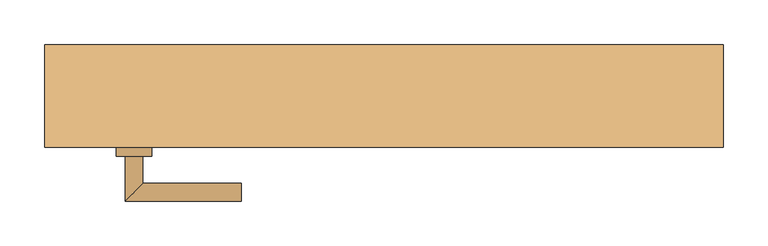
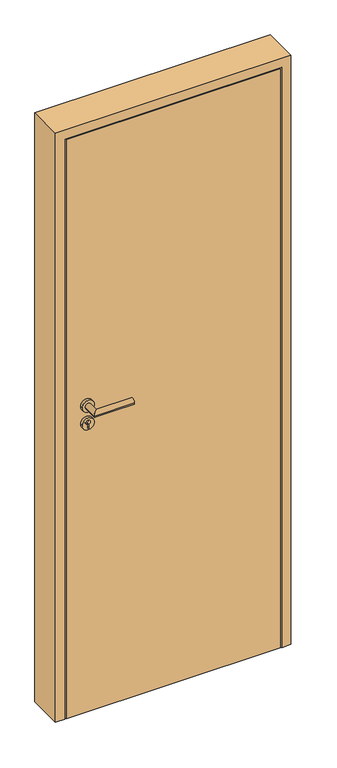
"""IFC4 building model written with IfcOpenShell, lengths in millimetres: door geometry, TU DF 1 - Rahmenstock flächenbündig variabel : ML - H - 885 x 2010."""

import ifcopenshell
import ifcopenshell.guid

model = None  # the IFC model being written
_history = None  # IfcOwnerHistory: only IFC2X3 demands one
_inside = {}  # id of a spatial element -> (the spatial element, [elements in it])
_under = {}  # id of a project, library or spatial element -> (it, [spatial elements below it])
_declared = {}  # id of a project -> (the project, [libraries it declares])
_typed = {}  # id of a type object -> (the type object, [elements of that type])
_made_of = {}  # id of a material, layer set ... -> (it, [elements and type objects made of it])


def new_model(schema):
    """Start an empty IFC model of exactly this schema.

    Asked for "IFC4X3", IfcOpenShell would pick the latest addendum, in which some entities
    have other attributes; the version numbers below select the first issue.
    IFC2X3 requires an IfcOwnerHistory on every rooted entity: one is made here for all.
    """
    global model, _history
    if schema == "IFC4X3":
        model = ifcopenshell.file(schema_version=(4, 3, 0, 0))
    else:
        model = ifcopenshell.file(schema=schema)
    _inside.clear()
    _under.clear()
    _declared.clear()
    _typed.clear()
    _made_of.clear()
    _history = None
    if model.schema == "IFC2X3":
        org = make("IfcOrganization", Name="unknown")
        user = make(
            "IfcPersonAndOrganization",
            ThePerson=make("IfcPerson", FamilyName="unknown"),
            TheOrganization=org,
        )
        app = make(
            "IfcApplication",
            ApplicationDeveloper=org,
            Version="unknown",
            ApplicationFullName="unknown",
            ApplicationIdentifier="unknown",
        )
        _history = make(
            "IfcOwnerHistory",
            OwningUser=user,
            OwningApplication=app,
            ChangeAction="ADDED",
            CreationDate=0,
        )
    return model


def make(cls, **values):
    """One entity of the class cls with the attributes given. An attribute that is None is left unset."""
    return model.create_entity(
        cls, **{name: value for name, value in values.items() if value is not None}
    )


def rooted(cls, **values):
    """An entity with a GlobalId (a new one), such as an element, a storey or a relation."""
    return make(cls, GlobalId=ifcopenshell.guid.new(), OwnerHistory=_history, **values)


def si_unit(unit_type, name, prefix=None):
    """IfcSIUnit, for example si_unit("LENGTHUNIT", "METRE", prefix="MILLI")."""
    return make("IfcSIUnit", UnitType=unit_type, Prefix=prefix, Name=name)


def assignment(units):
    """IfcUnitAssignment: the units of a project."""
    return None if units is None else make("IfcUnitAssignment", Units=units)


def point(xyz):
    """IfcCartesianPoint."""
    return None if xyz is None else make("IfcCartesianPoint", Coordinates=xyz)


def direction(xyz):
    """IfcDirection."""
    return None if xyz is None else make("IfcDirection", DirectionRatios=xyz)


def frame(location, z_axis=None, x_axis=None):
    """IfcAxis2Placement3D, a coordinate frame: its origin and axes. An axis left out is left unset."""
    return make(
        "IfcAxis2Placement3D",
        Location=point(location),
        Axis=direction(z_axis),
        RefDirection=direction(x_axis),
    )


def frame_2d(location, x_axis=None):
    """IfcAxis2Placement2D, a coordinate frame in the plane: its origin and x axis."""
    return make(
        "IfcAxis2Placement2D", Location=point(location), RefDirection=direction(x_axis)
    )


def origin():
    """The frame at (0, 0, 0) with its axes left unset."""
    return frame((0.0, 0.0, 0.0))


def origin_with_axes():
    """The frame at (0, 0, 0) with the z axis (0, 0, 1) and the x axis (1, 0, 0) written out."""
    return frame((0.0, 0.0, 0.0), z_axis=(0.0, 0.0, 1.0), x_axis=(1.0, 0.0, 0.0))


def place(relative_to, where):
    """IfcLocalPlacement: puts the frame where relative to a parent placement (None: the world)."""
    return make(
        "IfcLocalPlacement", PlacementRelTo=relative_to, RelativePlacement=where
    )


def context(
    kind, dimensions, precision=None, world=None, true_north=None, identifier=None
):
    """IfcGeometricRepresentationContext, for example the 3D "Model" context."""
    return make(
        "IfcGeometricRepresentationContext",
        ContextIdentifier=identifier,
        ContextType=kind,
        CoordinateSpaceDimension=dimensions,
        Precision=precision,
        WorldCoordinateSystem=world,
        TrueNorth=true_north,
    )


def project(units=None, contexts=None):
    """IfcProject with its units and contexts."""
    return rooted(
        "IfcProject",
        Name="project",
        RepresentationContexts=contexts,
        UnitsInContext=assignment(units),
    )


def spatial(cls, under=None, at=None, **own):
    """A site, building, storey or space (cls), placed at a placement, below another one or the project."""
    s = rooted(cls, ObjectPlacement=at, **own)
    if under is not None:
        _under.setdefault(under.id(), (under, []))[1].append(s)
    return s


def polyline(points):
    """IfcPolyline through the points."""
    return make("IfcPolyline", Points=[point(p) for p in points])


def circle_curve(where, radius):
    """IfcCircle in the frame where."""
    return make("IfcCircle", Position=where, Radius=radius)


def ellipse_curve(where, semi_axis1, semi_axis2):
    """IfcEllipse in the frame where."""
    return make(
        "IfcEllipse", Position=where, SemiAxis1=semi_axis1, SemiAxis2=semi_axis2
    )


def trimmed(basis, trim1, trim2, sense, master):
    """IfcTrimmedCurve: the piece of a basis curve between two trims."""
    return make(
        "IfcTrimmedCurve",
        BasisCurve=basis,
        Trim1=trim1,
        Trim2=trim2,
        SenseAgreement=sense,
        MasterRepresentation=master,
    )


def segment(curve, same_sense, transition):
    """IfcCompositeCurveSegment."""
    return make(
        "IfcCompositeCurveSegment",
        Transition=transition,
        SameSense=same_sense,
        ParentCurve=curve,
    )


def composite_curve(segments, self_intersect=None):
    """IfcCompositeCurve: segments joined end to end."""
    return make("IfcCompositeCurve", Segments=segments, SelfIntersect=self_intersect)


def outline(outer, holes=None, kind="AREA"):
    """IfcArbitraryClosedProfileDef: a profile drawn as a closed curve; with holes, ...WithVoids."""
    if holes is None:
        return make("IfcArbitraryClosedProfileDef", ProfileType=kind, OuterCurve=outer)
    return make(
        "IfcArbitraryProfileDefWithVoids",
        ProfileType=kind,
        OuterCurve=outer,
        InnerCurves=holes,
    )


def extrude(swept, where, along, depth):
    """IfcExtrudedAreaSolid: the profile swept, set in the frame where, extruded along a direction by depth."""
    return make(
        "IfcExtrudedAreaSolid",
        SweptArea=swept,
        Position=where,
        ExtrudedDirection=direction(along),
        Depth=depth,
    )


def faces_of(points, faces, orient=None, outer=None):
    """IfcFace entities. A face is a list of loops; a loop is a list of indices into points, from 0.

    orient and outer hold one flag for each loop. By default every Orientation is true, the
    first loop of a face is its IfcFaceOuterBound and the others are IfcFaceBound.
    """
    made = []
    for i, loops in enumerate(faces):
        bounds = []
        for j, loop in enumerate(loops):
            is_outer = j == 0 if outer is None else outer[i][j]
            bounds.append(
                make(
                    "IfcFaceOuterBound" if is_outer else "IfcFaceBound",
                    Bound=make("IfcPolyLoop", Polygon=[points[k] for k in loop]),
                    Orientation=True if orient is None else orient[i][j],
                )
            )
        made.append(make("IfcFace", Bounds=bounds))
    return made


def faceted_brep(points, faces, orient=None, outer=None, voids=None):
    """IfcFacetedBrep: a solid bounded by flat faces; with voids (closed shells), ...WithVoids."""
    shared = [point(p) for p in points]
    hull = make("IfcClosedShell", CfsFaces=faces_of(shared, faces, orient, outer))
    if voids is None:
        return make("IfcFacetedBrep", Outer=hull)
    return make(
        "IfcFacetedBrepWithVoids",
        Outer=hull,
        Voids=[
            make(cls, CfsFaces=faces_of(shared, fs, o, b)) for cls, fs, o, b in voids
        ],
    )


def shape(context_of_items, identifier, shape_type, items):
    """IfcShapeRepresentation: the items that make up one representation, for example the "Body"."""
    return make(
        "IfcShapeRepresentation",
        ContextOfItems=context_of_items,
        RepresentationIdentifier=identifier,
        RepresentationType=shape_type,
        Items=items,
    )


def source(mapping_origin, context_of_items, identifier, shape_type, items):
    """IfcRepresentationMap: a shape defined once, which mapped items show again and again."""
    return make(
        "IfcRepresentationMap",
        MappingOrigin=mapping_origin,
        MappedRepresentation=shape(context_of_items, identifier, shape_type, items),
    )


def transform(
    local_origin,
    x_axis=None,
    y_axis=None,
    z_axis=None,
    scale=None,
    scale2=None,
    scale3=None,
    uniform=True,
):
    """IfcCartesianTransformationOperator3D, or its non-uniform kind. x_axis, y_axis, z_axis: its Axis1, 2, 3."""
    if uniform:
        return make(
            "IfcCartesianTransformationOperator3D",
            Axis1=direction(x_axis),
            Axis2=direction(y_axis),
            LocalOrigin=point(local_origin),
            Scale=scale,
            Axis3=direction(z_axis),
        )
    return make(
        "IfcCartesianTransformationOperator3DnonUniform",
        Axis1=direction(x_axis),
        Axis2=direction(y_axis),
        LocalOrigin=point(local_origin),
        Scale=scale,
        Axis3=direction(z_axis),
        Scale2=scale2,
        Scale3=scale3,
    )


def mapped(mapping_source, mapping_target):
    """IfcMappedItem: shows the shape of a source again, moved by a transform."""
    return make(
        "IfcMappedItem", MappingSource=mapping_source, MappingTarget=mapping_target
    )


def made_of(thing, what):
    """Note that an element or type object is made of a material, layer set ...; save() writes the relation."""
    if what is not None:
        _made_of.setdefault(what.id(), (what, []))[1].append(thing)
    return thing


def element(
    cls,
    number,
    at=None,
    inside=None,
    cuts=None,
    type_object=None,
    material=None,
    context=None,
    identifier="Body",
    shape_type=None,
    held_by="IfcProductDefinitionShape",
    body=None,
    shapes=None,
    **own,
):
    """One element of the class cls, such as IfcWall. Its Tag is "e" and its number.

    at: its placement. inside: the storey or other place that contains it. cuts: it is an
    opening in that element (IfcRelVoidsElement). A single representation is given by context,
    identifier, shape_type and body (its items); several are given by shapes. held_by: the class
    of the entity that holds the representations. save() writes the other relations.
    """
    e = rooted(cls, Tag="e%d" % number, ObjectPlacement=at, **own)
    if body is not None:
        shapes = [shape(context, identifier, shape_type, body)]
    if shapes is not None:
        e.Representation = make(held_by, Representations=shapes)
    if inside is not None:
        _inside.setdefault(inside.id(), (inside, []))[1].append(e)
    if cuts is not None:
        rooted(
            "IfcRelVoidsElement", RelatingBuildingElement=cuts, RelatedOpeningElement=e
        )
    if type_object is not None:
        _typed.setdefault(type_object.id(), (type_object, []))[1].append(e)
    return made_of(e, material)


def aggregate(whole, parts):
    """IfcRelAggregates: a whole, such as a stair, and the parts it consists of."""
    return rooted("IfcRelAggregates", RelatingObject=whole, RelatedObjects=parts)


def save(model, path):
    """Write the relations noted so far, then the file.

    IfcRelAggregates (storeys below a building ...), IfcRelContainedInSpatialStructure (elements
    in a storey), IfcRelDefinesByType, IfcRelAssociatesMaterial and IfcRelDeclares: one each for
    every whole, place, type object, material and project.
    """
    for whole, parts in _under.values():
        aggregate(whole, parts)
    for where, things in _inside.values():
        rooted(
            "IfcRelContainedInSpatialStructure",
            RelatedElements=things,
            RelatingStructure=where,
        )
    for kind, things in _typed.values():
        rooted("IfcRelDefinesByType", RelatedObjects=things, RelatingType=kind)
    for what, things in _made_of.values():
        rooted("IfcRelAssociatesMaterial", RelatedObjects=things, RelatingMaterial=what)
    for by, libraries in _declared.values():
        rooted("IfcRelDeclares", RelatingContext=by, RelatedDefinitions=libraries)
    model.write(path)


def plane_surface(at):
    """IfcPlane: the flat surface through the origin of the frame at, square to its z axis."""
    return make("IfcPlane", Position=at)


def cylinder_surface(at, radius):
    """IfcCylindricalSurface: all points at the distance radius from the z axis of the frame at."""
    return make("IfcCylindricalSurface", Position=at, Radius=radius)


def advanced_brep(points, edges, surfaces, faces):
    """IfcAdvancedBrep: a solid bounded by faces that lie on surfaces and meet in shared edges.

    An edge is (start, end): straight between two places in points (the first is 0);
    or (start, end, curve); or (start, end, curve, False) where it runs against its curve.
    A face is (place in surfaces, loops), or (place, loops, False) where it looks against
    its surface's normal. A loop lists edges by number (the first is 1), with a minus sign
    where the edge is run from its end to its start. The first loop is the outer one.
    """
    corners = [point(p) for p in points]
    vertices = [make("IfcVertexPoint", VertexGeometry=c) for c in corners]
    made = []
    for start, end, *more in edges:
        made.append(
            make(
                "IfcEdgeCurve",
                EdgeStart=vertices[start],
                EdgeEnd=vertices[end],
                EdgeGeometry=more[0] if more else make("IfcPolyline", Points=[corners[start], corners[end]]),
                SameSense=more[1] if len(more) > 1 else True,
            )
        )
    hull = []
    for where, loops, *sense in faces:
        bounds = []
        for j, loop in enumerate(loops):
            ring = [make("IfcOrientedEdge", EdgeElement=made[abs(k) - 1], Orientation=k > 0) for k in loop]
            bounds.append(
                make(
                    "IfcFaceOuterBound" if j == 0 else "IfcFaceBound",
                    Bound=make("IfcEdgeLoop", EdgeList=ring),
                    Orientation=True,
                )
            )
        hull.append(make("IfcAdvancedFace", Bounds=bounds, FaceSurface=surfaces[where], SameSense=sense[0] if sense else True))
    return make("IfcAdvancedBrep", Outer=make("IfcClosedShell", CfsFaces=hull))


def door_1d4fa7a0(model_context):
    return source(origin(), model_context, "Body", "SolidModel", [
        extrude(outline(polyline([(346.0, -57.5), (-346.0, -57.5), (-346.0, -12.5), (346.0, -12.5), (346.0, -57.5)])), origin_with_axes(), (0.0, 0.0, 1.0), 1976.0),
        advanced_brep(
        [(-270.0, -67.5, 1050.0), (-290.0, -67.5, 1050.0), (-290.0, -117.5, 1050.0), (-270.0, -97.5, 1050.0), (-160.0, -97.5, 1050.0), (-160.0, -117.5, 1050.0)],
        [
            (0, 1, circle_curve(frame((-280.0, -67.5, 1050.0), z_axis=(0.0, 1.0, 0.0), x_axis=(-1.0, 0.0, 0.0)), 10.0)),
            (1, 0, circle_curve(frame((-280.0, -67.5, 1050.0), z_axis=(0.0, 1.0, 0.0), x_axis=(-1.0, 0.0, 0.0)), 10.0)),
            (1, 2),
            (2, 3, ellipse_curve(frame((-280.0, -107.5, 1050.0), z_axis=(-0.7071067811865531, 0.7071067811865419, 0.0), x_axis=(0.707106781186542, 0.707106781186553, 0.0)), 14.1421356, 10.0)),
            (3, 0),
            (3, 2, ellipse_curve(frame((-280.0, -107.5, 1050.0), z_axis=(-0.7071067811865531, 0.7071067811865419, 0.0), x_axis=(0.707106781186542, 0.707106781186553, 0.0)), 14.1421356, 10.0)),
            (4, 5, circle_curve(frame((-160.0, -107.5, 1050.0), z_axis=(1.0, 0.0, 0.0), x_axis=(0.0, -1.0, 0.0)), 10.0)),
            (5, 4, circle_curve(frame((-160.0, -107.5, 1050.0), z_axis=(1.0, 0.0, 0.0), x_axis=(0.0, -1.0, 0.0)), 10.0)),
            (2, 5),
            (4, 3),
        ],
        [
            plane_surface(frame((-280.0, -67.5, 1050.0), z_axis=(0.0, 1.0, 0.0), x_axis=(0.0, 0.0, 1.0))),
            cylinder_surface(frame((-280.0, -67.5, 1050.0), z_axis=(0.0, 1.0, 0.0), x_axis=(-1.0, 0.0, 0.0)), 10.0),
            plane_surface(frame((-160.0, -107.5, 1050.0), z_axis=(1.0, 0.0, 0.0), x_axis=(0.0, 0.0, 1.0))),
            cylinder_surface(frame((-280.0, -107.5, 1050.0), z_axis=(-1.0, 0.0, 0.0), x_axis=(0.0, -1.0, 0.0)), 10.0),
        ],
        [
            (0, [[1, 2]]),
            (1, [[3, 4, 5, -2]]),
            (1, [[-5, 6, -3, -1]]),
            (2, [[7, 8]]),
            (3, [[9, -7, 10, -4]]),
            (3, [[-10, -8, -9, -6]]),
        ],
    ),
        extrude(outline(composite_curve([segment(trimmed(circle_curve(frame_2d((990.0, -280.0)), 20.0), [point((990.0, -300.0))], [point((990.0, -260.0))], False, "CARTESIAN"), True, "CONTINUOUS"), segment(trimmed(circle_curve(frame_2d((990.0, -280.0)), 20.0), [point((990.0, -260.0))], [point((990.0, -300.0))], False, "CARTESIAN"), True, "CONTINUOUS")], self_intersect=False), holes=[composite_curve([segment(polyline([(976.4601385, -282.397268), (988.4749012, -282.397268)]), True, "CONTINUOUS"), segment(trimmed(circle_curve(frame_2d((995.0361633, -280.0)), 6.9854888), [point((988.4749012, -282.397268))], [point((988.4749012, -277.602732))], True, "CARTESIAN"), True, "CONTINUOUS"), segment(polyline([(988.4749012, -277.602732), (976.4601385, -277.602732)]), True, "CONTINUOUS"), segment(trimmed(circle_curve(frame_2d((976.4601385, -280.0)), 2.397268), [point((976.4601385, -277.602732))], [point((976.4601385, -282.397268))], True, "CARTESIAN"), True, "CONTINUOUS")], self_intersect=False)]), frame((0.0, -67.5, 0.0), z_axis=(0.0, 1.0, 0.0), x_axis=(0.0, 0.0, 1.0)), (0.0, 0.0, 1.0), 10.0),
        advanced_brep(
        [(-270.0, -67.5, 1050.0), (-290.0, -67.5, 1050.0), (-290.0, -117.5, 1050.0), (-270.0, -97.5, 1050.0), (-160.0, -97.5, 1050.0), (-160.0, -117.5, 1050.0)],
        [
            (0, 1, circle_curve(frame((-280.0, -67.5, 1050.0), z_axis=(0.0, 1.0, 0.0), x_axis=(-1.0, 0.0, 0.0)), 10.0)),
            (1, 0, circle_curve(frame((-280.0, -67.5, 1050.0), z_axis=(0.0, 1.0, 0.0), x_axis=(-1.0, 0.0, 0.0)), 10.0)),
            (1, 2),
            (2, 3, ellipse_curve(frame((-280.0, -107.5, 1050.0), z_axis=(-0.7071067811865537, 0.7071067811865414, 0.0), x_axis=(0.7071067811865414, 0.7071067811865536, 0.0)), 14.1421356, 10.0)),
            (3, 0),
            (3, 2, ellipse_curve(frame((-280.0, -107.5, 1050.0), z_axis=(-0.7071067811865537, 0.7071067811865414, 0.0), x_axis=(0.7071067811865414, 0.7071067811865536, 0.0)), 14.1421356, 10.0)),
            (4, 5, circle_curve(frame((-160.0, -107.5, 1050.0), z_axis=(1.0, 0.0, 0.0), x_axis=(0.0, -1.0, 0.0)), 10.0)),
            (5, 4, circle_curve(frame((-160.0, -107.5, 1050.0), z_axis=(1.0, 0.0, 0.0), x_axis=(0.0, -1.0, 0.0)), 10.0)),
            (2, 5),
            (4, 3),
        ],
        [
            plane_surface(frame((-280.0, -67.5, 1050.0), z_axis=(0.0, 1.0, 0.0), x_axis=(0.0, 0.0, 1.0))),
            cylinder_surface(frame((-280.0, -67.5, 1050.0), z_axis=(0.0, 1.0, 0.0), x_axis=(-1.0, 0.0, 0.0)), 10.0),
            plane_surface(frame((-160.0, -107.5, 1050.0), z_axis=(1.0, 0.0, 0.0), x_axis=(0.0, 0.0, 1.0))),
            cylinder_surface(frame((-280.0, -107.5, 1050.0), z_axis=(-1.0, 0.0, 0.0), x_axis=(0.0, -1.0, 0.0)), 10.0),
        ],
        [
            (0, [[1, 2]]),
            (1, [[3, 4, 5, -2]]),
            (1, [[-5, 6, -3, -1]]),
            (2, [[7, 8]]),
            (3, [[9, -7, 10, -4]]),
            (3, [[-10, -8, -9, -6]]),
        ],
    ),
        extrude(outline(composite_curve([segment(trimmed(circle_curve(frame_2d((1050.0, -280.0)), 20.0), [point((1050.0, -300.0))], [point((1050.0, -260.0))], False, "CARTESIAN"), True, "CONTINUOUS"), segment(trimmed(circle_curve(frame_2d((1050.0, -280.0)), 20.0), [point((1050.0, -260.0))], [point((1050.0, -300.0))], False, "CARTESIAN"), True, "CONTINUOUS")], self_intersect=False)), frame((0.0, -67.5, 0.0), z_axis=(0.0, 1.0, 0.0), x_axis=(0.0, 0.0, 1.0)), (0.0, 0.0, 1.0), 10.0),
        advanced_brep(
        [(-270.0, -2.5, 1050.0), (-290.0, -2.5, 1050.0), (-270.0, 27.5, 1050.0), (-290.0, 47.5, 1050.0), (-160.0, 27.5, 1050.0), (-160.0, 47.5, 1050.0)],
        [
            (0, 1, circle_curve(frame((-280.0, -2.5, 1050.0), z_axis=(0.0, -1.0, 0.0), x_axis=(-1.0, 0.0, 0.0)), 10.0)),
            (1, 0, circle_curve(frame((-280.0, -2.5, 1050.0), z_axis=(0.0, -1.0, 0.0), x_axis=(-1.0, 0.0, 0.0)), 10.0)),
            (0, 2),
            (2, 3, ellipse_curve(frame((-280.0, 37.5, 1050.0), z_axis=(-0.7071067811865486, -0.7071067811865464, 0.0), x_axis=(0.7071067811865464, -0.7071067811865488, 0.0)), 14.1421356, 10.0)),
            (3, 1),
            (3, 2, ellipse_curve(frame((-280.0, 37.5, 1050.0), z_axis=(-0.7071067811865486, -0.7071067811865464, 0.0), x_axis=(0.7071067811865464, -0.7071067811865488, 0.0)), 14.1421356, 10.0)),
            (4, 5, circle_curve(frame((-160.0, 37.5, 1050.0), z_axis=(1.0, 0.0, 0.0), x_axis=(0.0, 1.0, 0.0)), 10.0)),
            (5, 4, circle_curve(frame((-160.0, 37.5, 1050.0), z_axis=(1.0, 0.0, 0.0), x_axis=(0.0, 1.0, 0.0)), 10.0)),
            (2, 4),
            (5, 3),
        ],
        [
            plane_surface(frame((-280.0, -2.5, 1050.0), z_axis=(0.0, -1.0, 0.0), x_axis=(0.0, 0.0, 1.0))),
            cylinder_surface(frame((-280.0, -2.5, 1050.0), z_axis=(0.0, -1.0, 0.0), x_axis=(-1.0, 0.0, 0.0)), 10.0),
            plane_surface(frame((-160.0, 37.5, 1050.0), z_axis=(1.0, 0.0, 0.0), x_axis=(0.0, 0.0, 1.0))),
            cylinder_surface(frame((-280.0, 37.5, 1050.0), z_axis=(-1.0, 0.0, 0.0), x_axis=(0.0, 1.0, 0.0)), 10.0),
        ],
        [
            (0, [[1, 2]]),
            (1, [[-1, 3, 4, 5]]),
            (1, [[-2, -5, 6, -3]]),
            (2, [[7, 8]]),
            (3, [[-4, 9, -8, 10]]),
            (3, [[-6, -10, -7, -9]]),
        ],
    ),
        extrude(outline(composite_curve([segment(trimmed(circle_curve(frame_2d((990.0, -280.0)), 20.0), [point((990.0, -300.0))], [point((990.0, -260.0))], False, "CARTESIAN"), True, "CONTINUOUS"), segment(trimmed(circle_curve(frame_2d((990.0, -280.0)), 20.0), [point((990.0, -260.0))], [point((990.0, -300.0))], False, "CARTESIAN"), True, "CONTINUOUS")], self_intersect=False), holes=[composite_curve([segment(polyline([(976.4601385, -282.397268), (988.4749012, -282.397268)]), True, "CONTINUOUS"), segment(trimmed(circle_curve(frame_2d((995.0361633, -280.0)), 6.9854888), [point((988.4749012, -282.397268))], [point((988.4749012, -277.602732))], True, "CARTESIAN"), True, "CONTINUOUS"), segment(polyline([(988.4749012, -277.602732), (976.4601385, -277.602732)]), True, "CONTINUOUS"), segment(trimmed(circle_curve(frame_2d((976.4601385, -280.0)), 2.397268), [point((976.4601385, -277.602732))], [point((976.4601385, -282.397268))], True, "CARTESIAN"), True, "CONTINUOUS")], self_intersect=False)]), frame((0.0, -12.5, 0.0), z_axis=(0.0, 1.0, 0.0), x_axis=(0.0, 0.0, 1.0)), (0.0, 0.0, 1.0), 10.0),
        advanced_brep(
        [(-270.0, -2.5, 1050.0), (-290.0, -2.5, 1050.0), (-270.0, 27.5, 1050.0), (-290.0, 47.5, 1050.0), (-160.0, 27.5, 1050.0), (-160.0, 47.5, 1050.0)],
        [
            (0, 1, circle_curve(frame((-280.0, -2.5, 1050.0), z_axis=(0.0, -1.0, 0.0), x_axis=(-1.0, 0.0, 0.0)), 10.0)),
            (1, 0, circle_curve(frame((-280.0, -2.5, 1050.0), z_axis=(0.0, -1.0, 0.0), x_axis=(-1.0, 0.0, 0.0)), 10.0)),
            (0, 2),
            (2, 3, ellipse_curve(frame((-280.0, 37.5, 1050.0), z_axis=(-0.7071067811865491, -0.7071067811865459, 0.0), x_axis=(0.7071067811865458, -0.7071067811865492, 0.0)), 14.1421356, 10.0)),
            (3, 1),
            (3, 2, ellipse_curve(frame((-280.0, 37.5, 1050.0), z_axis=(-0.7071067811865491, -0.7071067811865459, 0.0), x_axis=(0.7071067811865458, -0.7071067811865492, 0.0)), 14.1421356, 10.0)),
            (4, 5, circle_curve(frame((-160.0, 37.5, 1050.0), z_axis=(1.0, 0.0, 0.0), x_axis=(0.0, 1.0, 0.0)), 10.0)),
            (5, 4, circle_curve(frame((-160.0, 37.5, 1050.0), z_axis=(1.0, 0.0, 0.0), x_axis=(0.0, 1.0, 0.0)), 10.0)),
            (2, 4),
            (5, 3),
        ],
        [
            plane_surface(frame((-280.0, -2.5, 1050.0), z_axis=(0.0, -1.0, 0.0), x_axis=(0.0, 0.0, 1.0))),
            cylinder_surface(frame((-280.0, -2.5, 1050.0), z_axis=(0.0, -1.0, 0.0), x_axis=(-1.0, 0.0, 0.0)), 10.0),
            plane_surface(frame((-160.0, 37.5, 1050.0), z_axis=(1.0, 0.0, 0.0), x_axis=(0.0, 0.0, 1.0))),
            cylinder_surface(frame((-280.0, 37.5, 1050.0), z_axis=(-1.0, 0.0, 0.0), x_axis=(0.0, 1.0, 0.0)), 10.0),
        ],
        [
            (0, [[1, 2]]),
            (1, [[-1, 3, 4, 5]]),
            (1, [[-2, -5, 6, -3]]),
            (2, [[7, 8]]),
            (3, [[-4, 9, -8, 10]]),
            (3, [[-6, -10, -7, -9]]),
        ],
    ),
        extrude(outline(composite_curve([segment(trimmed(circle_curve(frame_2d((1050.0, -280.0)), 20.0), [point((1050.0, -300.0))], [point((1050.0, -260.0))], False, "CARTESIAN"), True, "CONTINUOUS"), segment(trimmed(circle_curve(frame_2d((1050.0, -280.0)), 20.0), [point((1050.0, -260.0))], [point((1050.0, -300.0))], False, "CARTESIAN"), True, "CONTINUOUS")], self_intersect=False)), frame((0.0, -12.5, 0.0), z_axis=(0.0, 1.0, 0.0), x_axis=(0.0, 0.0, 1.0)), (0.0, 0.0, 1.0), 10.0),
        faceted_brep([(-350.0, -57.5, 0.0), (-380.0, -57.5, 0.0), (-380.0, 57.5, 0.0), (-335.0, 57.5, 0.0), (-335.0, -12.5, 0.0), (-350.0, -12.5, 0.0), (-350.0, -12.5, 1980.0), (-350.0, -57.5, 1980.0), (-335.0, -12.5, 1965.0), (335.0, -12.5, 1965.0), (335.0, -12.5, 0.0), (350.0, -12.5, 0.0), (350.0, -12.5, 1980.0), (-335.0, 57.5, 1965.0), (-380.0, 57.5, 2010.0), (380.0, 57.5, 2010.0), (380.0, 57.5, 0.0), (335.0, 57.5, 0.0), (335.0, 57.5, 1965.0), (-380.0, -57.5, 2010.0), (350.0, -57.5, 1980.0), (350.0, -57.5, 0.0), (380.0, -57.5, 0.0), (380.0, -57.5, 2010.0)], [[[0, 1, 2, 3, 4, 5]], [[5, 6, 7, 0]], [[4, 8, 9, 10, 11, 12, 6, 5]], [[3, 13, 8, 4]], [[2, 14, 15, 16, 17, 18, 13, 3]], [[1, 19, 14, 2]], [[0, 7, 20, 21, 22, 23, 19, 1]], [[23, 22, 16, 15]], [[21, 11, 10, 17, 16, 22]], [[12, 11, 21, 20]], [[18, 17, 10, 9]], [[19, 23, 15, 14]], [[13, 18, 9, 8]], [[6, 12, 20, 7]]]),
    ])


if __name__ == "__main__":
    model = new_model("IFC4")
    model_context = context("Model", 3, world=origin())
    ifc_project = project(units=[si_unit("LENGTHUNIT", "METRE", prefix="MILLI")], contexts=[model_context])
    site = spatial("IfcSite", under=ifc_project)
    building = spatial("IfcBuilding", under=site)
    placement = place(None, origin())
    door_shape = door_1d4fa7a0(model_context)
    element("IfcDoor", 1, ObjectType="TU DF 1 - Rahmenstock flächenbündig variabel : ML - H - 885 x 2010", at=placement, inside=building, context=model_context, shape_type="MappedRepresentation", body=[
        mapped(door_shape, transform((0.0, 0.0, 0.0), x_axis=(1.0, 0.0, 0.0), y_axis=(0.0, 1.0, 0.0), z_axis=(0.0, 0.0, 1.0))),
    ])
    save(model, "model.ifc")
